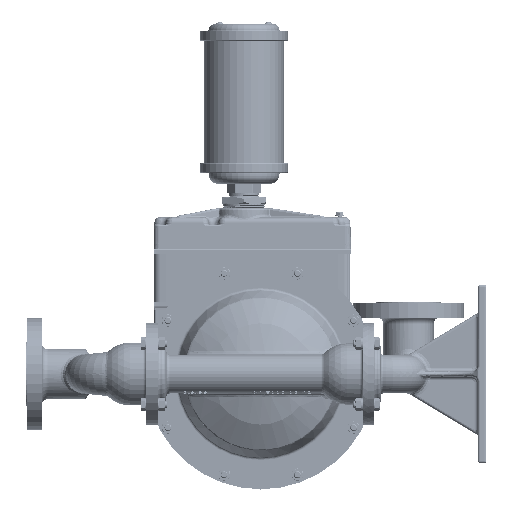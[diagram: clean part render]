
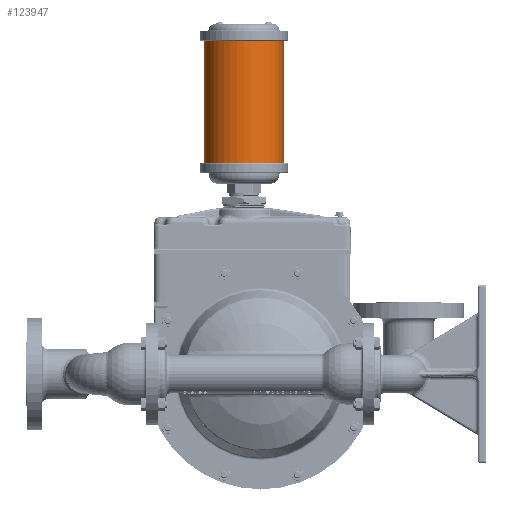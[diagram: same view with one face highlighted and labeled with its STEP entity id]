
A CAD part, left-side view. The second image highlights one B-rep face of the part: STEP entity #123947.
In plain terms, the highlighted cylindrical face has radius 45.339 mm (diameter 90.678 mm), a partial arc.
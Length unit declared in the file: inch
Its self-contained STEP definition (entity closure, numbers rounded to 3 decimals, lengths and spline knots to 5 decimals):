
#9007 = ORIENTED_EDGE ( 'NONE', *, *, #172238, .T. ) ;
#59448 = CARTESIAN_POINT ( 'NONE',  ( 0., 0.75, 16.079 ) ) ;
#61909 = FACE_OUTER_BOUND ( 'NONE', #330636, .T. ) ;
#67276 = DIRECTION ( 'NONE',  ( 0., 0., -1. ) ) ;
#68561 = CARTESIAN_POINT ( 'NONE',  ( 0., 2.535, 9.47 ) ) ;
#79474 = VERTEX_POINT ( 'NONE', #384395 ) ;
#85898 = VERTEX_POINT ( 'NONE', #186034 ) ;
#103990 = VECTOR ( 'NONE', #176187, 39.37008 ) ;
#121159 = AXIS2_PLACEMENT_3D ( 'NONE', #259002, #289790, #228311 ) ;
#123947 = ADVANCED_FACE ( 'NONE', ( #61909 ), #199347, .T. ) ;
#125016 = EDGE_CURVE ( 'NONE', #79474, #194375, #361726, .T. ) ;
#132657 = ORIENTED_EDGE ( 'NONE', *, *, #125016, .F. ) ;
#153666 = EDGE_CURVE ( 'NONE', #251411, #85898, #172364, .T. ) ;
#157707 = CARTESIAN_POINT ( 'NONE',  ( 0., -1.035, 14.97 ) ) ;
#159715 = ORIENTED_EDGE ( 'NONE', *, *, #153666, .T. ) ;
#167701 = AXIS2_PLACEMENT_3D ( 'NONE', #59448, #67276, #189943 ) ;
#172238 = EDGE_CURVE ( 'NONE', #85898, #194375, #367837, .T. ) ;
#172364 = CIRCLE ( 'NONE', #121159, 1.785 ) ;
#176187 = DIRECTION ( 'NONE',  ( 0., 0., 1. ) ) ;
#184101 = CARTESIAN_POINT ( 'NONE',  ( 0., -1.035, 9.47 ) ) ;
#186034 = CARTESIAN_POINT ( 'NONE',  ( 0., -1.035, 9.47 ) ) ;
#186416 = EDGE_CURVE ( 'NONE', #251411, #79474, #362261, .T. ) ;
#189943 = DIRECTION ( 'NONE',  ( 0., -1., 0. ) ) ;
#194375 = VERTEX_POINT ( 'NONE', #157707 ) ;
#199347 = CYLINDRICAL_SURFACE ( 'NONE', #167701, 1.785 ) ;
#212924 = CARTESIAN_POINT ( 'NONE',  ( 0., 2.535, 9.47 ) ) ;
#228311 = DIRECTION ( 'NONE',  ( 0., 1., 0. ) ) ;
#229274 = AXIS2_PLACEMENT_3D ( 'NONE', #283724, #291586, #322346 ) ;
#230668 = VECTOR ( 'NONE', #361011, 39.37008 ) ;
#251411 = VERTEX_POINT ( 'NONE', #68561 ) ;
#251707 = ORIENTED_EDGE ( 'NONE', *, *, #186416, .F. ) ;
#259002 = CARTESIAN_POINT ( 'NONE',  ( 0., 0.75, 9.47 ) ) ;
#283724 = CARTESIAN_POINT ( 'NONE',  ( 0., 0.75, 14.97 ) ) ;
#289790 = DIRECTION ( 'NONE',  ( 0., 0., 1. ) ) ;
#291586 = DIRECTION ( 'NONE',  ( 0., 0., 1. ) ) ;
#322346 = DIRECTION ( 'NONE',  ( 0., 1., 0. ) ) ;
#330636 = EDGE_LOOP ( 'NONE', ( #159715, #9007, #132657, #251707 ) ) ;
#361011 = DIRECTION ( 'NONE',  ( 0., 0., 1. ) ) ;
#361726 = CIRCLE ( 'NONE', #229274, 1.785 ) ;
#362261 = LINE ( 'NONE', #212924, #230668 ) ;
#367837 = LINE ( 'NONE', #184101, #103990 ) ;
#384395 = CARTESIAN_POINT ( 'NONE',  ( 0., 2.535, 14.97 ) ) ;
